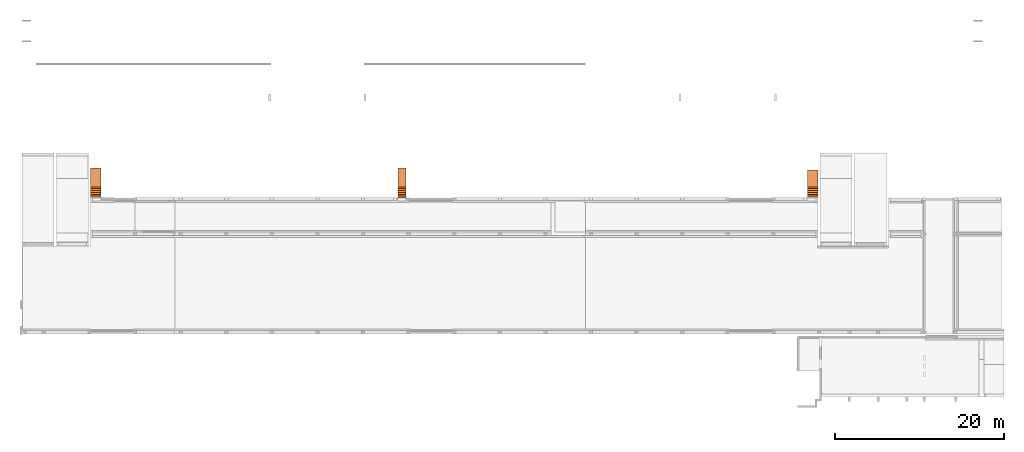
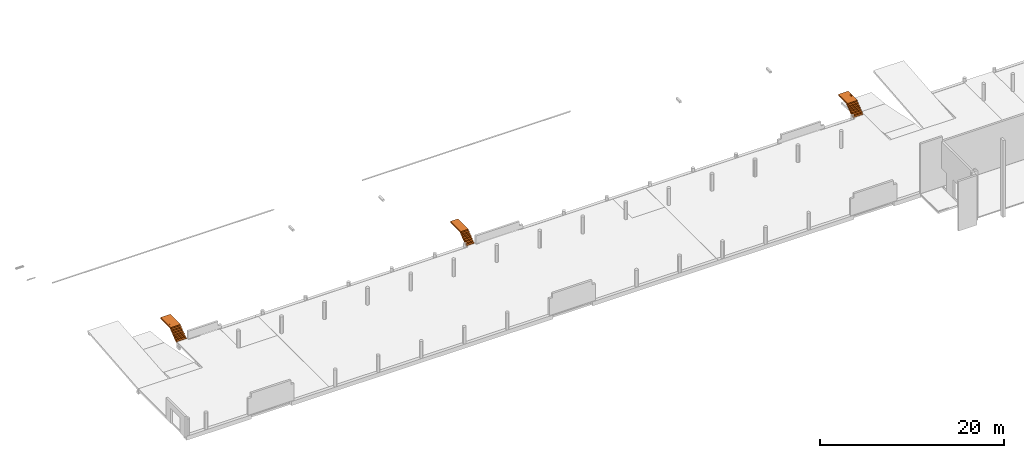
# One storey, part 9 of 9: 3 proxies.
"""IFC2X3 building model written with IfcOpenShell, lengths in millimetres."""

import ifcopenshell
import ifcopenshell.guid

model = None  # the IFC model being written
_history = None  # IfcOwnerHistory: only IFC2X3 demands one
_inside = {}  # id of a spatial element -> (the spatial element, [elements in it])
_under = {}  # id of a project, library or spatial element -> (it, [spatial elements below it])
_declared = {}  # id of a project -> (the project, [libraries it declares])
_typed = {}  # id of a type object -> (the type object, [elements of that type])
_made_of = {}  # id of a material, layer set ... -> (it, [elements and type objects made of it])


def new_model(schema):
    """Start an empty IFC model of exactly this schema.

    Asked for "IFC4X3", IfcOpenShell would pick the latest addendum, in which some entities
    have other attributes; the version numbers below select the first issue.
    IFC2X3 requires an IfcOwnerHistory on every rooted entity: one is made here for all.
    """
    global model, _history
    if schema == "IFC4X3":
        model = ifcopenshell.file(schema_version=(4, 3, 0, 0))
    else:
        model = ifcopenshell.file(schema=schema)
    _inside.clear()
    _under.clear()
    _declared.clear()
    _typed.clear()
    _made_of.clear()
    _history = None
    if model.schema == "IFC2X3":
        org = make("IfcOrganization", Name="unknown")
        user = make(
            "IfcPersonAndOrganization",
            ThePerson=make("IfcPerson", FamilyName="unknown"),
            TheOrganization=org,
        )
        app = make(
            "IfcApplication",
            ApplicationDeveloper=org,
            Version="unknown",
            ApplicationFullName="unknown",
            ApplicationIdentifier="unknown",
        )
        _history = make(
            "IfcOwnerHistory",
            OwningUser=user,
            OwningApplication=app,
            ChangeAction="ADDED",
            CreationDate=0,
        )
    return model


def make(cls, **values):
    """One entity of the class cls with the attributes given. An attribute that is None is left unset."""
    return model.create_entity(
        cls, **{name: value for name, value in values.items() if value is not None}
    )


def entity(cls, *values):
    """Any entity or typed value of the class cls, its attributes in the order of the schema. None: left unset."""
    e = model.create_entity(cls)
    for i, value in enumerate(values):
        if value is not None:
            e[i] = value
    return e


def rooted(cls, **values):
    """An entity with a GlobalId (a new one), such as an element, a storey or a relation."""
    return make(cls, GlobalId=ifcopenshell.guid.new(), OwnerHistory=_history, **values)


def si_unit(unit_type, name, prefix=None):
    """IfcSIUnit, for example si_unit("LENGTHUNIT", "METRE", prefix="MILLI")."""
    return make("IfcSIUnit", UnitType=unit_type, Prefix=prefix, Name=name)


def converted_unit(unit_type, name, factor, base, dimensions=None, offset=None):
    """IfcConversionBasedUnit, such as the inch: factor (a typed value) times the base unit."""
    return make(
        "IfcConversionBasedUnit"
        if offset is None
        else "IfcConversionBasedUnitWithOffset",
        ConversionOffset=offset,
        Dimensions=None
        if dimensions is None
        else entity("IfcDimensionalExponents", *dimensions),
        UnitType=unit_type,
        Name=name,
        ConversionFactor=make(
            "IfcMeasureWithUnit", ValueComponent=factor, UnitComponent=base
        ),
    )


def derived_unit(unit_type, elements):
    """IfcDerivedUnit: a product of units, each with its exponent."""
    return make(
        "IfcDerivedUnit",
        Elements=[
            make("IfcDerivedUnitElement", Unit=unit, Exponent=power)
            for unit, power in elements
        ],
        UnitType=unit_type,
    )


def assignment(units):
    """IfcUnitAssignment: the units of a project."""
    return None if units is None else make("IfcUnitAssignment", Units=units)


def point(xyz):
    """IfcCartesianPoint."""
    return None if xyz is None else make("IfcCartesianPoint", Coordinates=xyz)


def direction(xyz):
    """IfcDirection."""
    return None if xyz is None else make("IfcDirection", DirectionRatios=xyz)


def frame(location, z_axis=None, x_axis=None):
    """IfcAxis2Placement3D, a coordinate frame: its origin and axes. An axis left out is left unset."""
    return make(
        "IfcAxis2Placement3D",
        Location=point(location),
        Axis=direction(z_axis),
        RefDirection=direction(x_axis),
    )


def origin():
    """The frame at (0, 0, 0) with its axes left unset."""
    return frame((0.0, 0.0, 0.0))


def place(relative_to, where):
    """IfcLocalPlacement: puts the frame where relative to a parent placement (None: the world)."""
    return make(
        "IfcLocalPlacement", PlacementRelTo=relative_to, RelativePlacement=where
    )


def context(
    kind, dimensions, precision=None, world=None, true_north=None, identifier=None
):
    """IfcGeometricRepresentationContext, for example the 3D "Model" context."""
    return make(
        "IfcGeometricRepresentationContext",
        ContextIdentifier=identifier,
        ContextType=kind,
        CoordinateSpaceDimension=dimensions,
        Precision=precision,
        WorldCoordinateSystem=world,
        TrueNorth=true_north,
    )


def subcontext(parent, identifier, kind, view, scale=None):
    """IfcGeometricRepresentationSubContext, for example "Body" below "Model"."""
    return make(
        "IfcGeometricRepresentationSubContext",
        ContextIdentifier=identifier,
        ContextType=kind,
        ParentContext=parent,
        TargetScale=scale,
        TargetView=view,
    )


def project(units=None, contexts=None):
    """IfcProject with its units and contexts."""
    return rooted(
        "IfcProject",
        Name="project",
        RepresentationContexts=contexts,
        UnitsInContext=assignment(units),
    )


def spatial(cls, under=None, at=None, **own):
    """A site, building, storey or space (cls), placed at a placement, below another one or the project."""
    s = rooted(cls, ObjectPlacement=at, **own)
    if under is not None:
        _under.setdefault(under.id(), (under, []))[1].append(s)
    return s


def polyline(points):
    """IfcPolyline through the points."""
    return make("IfcPolyline", Points=[point(p) for p in points])


def outline(outer, holes=None, kind="AREA"):
    """IfcArbitraryClosedProfileDef: a profile drawn as a closed curve; with holes, ...WithVoids."""
    if holes is None:
        return make("IfcArbitraryClosedProfileDef", ProfileType=kind, OuterCurve=outer)
    return make(
        "IfcArbitraryProfileDefWithVoids",
        ProfileType=kind,
        OuterCurve=outer,
        InnerCurves=holes,
    )


def extrude(swept, where, along, depth):
    """IfcExtrudedAreaSolid: the profile swept, set in the frame where, extruded along a direction by depth."""
    return make(
        "IfcExtrudedAreaSolid",
        SweptArea=swept,
        Position=where,
        ExtrudedDirection=direction(along),
        Depth=depth,
    )


def shape(context_of_items, identifier, shape_type, items):
    """IfcShapeRepresentation: the items that make up one representation, for example the "Body"."""
    return make(
        "IfcShapeRepresentation",
        ContextOfItems=context_of_items,
        RepresentationIdentifier=identifier,
        RepresentationType=shape_type,
        Items=items,
    )


def source(mapping_origin, context_of_items, identifier, shape_type, items):
    """IfcRepresentationMap: a shape defined once, which mapped items show again and again."""
    return make(
        "IfcRepresentationMap",
        MappingOrigin=mapping_origin,
        MappedRepresentation=shape(context_of_items, identifier, shape_type, items),
    )


def transform(
    local_origin,
    x_axis=None,
    y_axis=None,
    z_axis=None,
    scale=None,
    scale2=None,
    scale3=None,
    uniform=True,
):
    """IfcCartesianTransformationOperator3D, or its non-uniform kind. x_axis, y_axis, z_axis: its Axis1, 2, 3."""
    if uniform:
        return make(
            "IfcCartesianTransformationOperator3D",
            Axis1=direction(x_axis),
            Axis2=direction(y_axis),
            LocalOrigin=point(local_origin),
            Scale=scale,
            Axis3=direction(z_axis),
        )
    return make(
        "IfcCartesianTransformationOperator3DnonUniform",
        Axis1=direction(x_axis),
        Axis2=direction(y_axis),
        LocalOrigin=point(local_origin),
        Scale=scale,
        Axis3=direction(z_axis),
        Scale2=scale2,
        Scale3=scale3,
    )


def mapped(mapping_source, mapping_target):
    """IfcMappedItem: shows the shape of a source again, moved by a transform."""
    return make(
        "IfcMappedItem", MappingSource=mapping_source, MappingTarget=mapping_target
    )


def material(Name=None, Category=None):
    """IfcMaterial."""
    return make("IfcMaterial", Name=Name, Category=Category)


def made_of(thing, what):
    """Note that an element or type object is made of a material, layer set ...; save() writes the relation."""
    if what is not None:
        _made_of.setdefault(what.id(), (what, []))[1].append(thing)
    return thing


def type_object(cls, material=None, **own):
    """A type object (cls), such as IfcWallType, which elements share."""
    return made_of(rooted(cls, **own), material)


def type_shapes(of_type, sources):
    """Give a type object the sources (RepresentationMaps) that its elements show as mapped items."""
    of_type.RepresentationMaps = sources


def element(
    cls,
    number,
    at=None,
    inside=None,
    cuts=None,
    type_object=None,
    material=None,
    context=None,
    identifier="Body",
    shape_type=None,
    held_by="IfcProductDefinitionShape",
    body=None,
    shapes=None,
    **own,
):
    """One element of the class cls, such as IfcWall. Its Tag is "e" and its number.

    at: its placement. inside: the storey or other place that contains it. cuts: it is an
    opening in that element (IfcRelVoidsElement). A single representation is given by context,
    identifier, shape_type and body (its items); several are given by shapes. held_by: the class
    of the entity that holds the representations. save() writes the other relations.
    """
    e = rooted(cls, Tag="e%d" % number, ObjectPlacement=at, **own)
    if body is not None:
        shapes = [shape(context, identifier, shape_type, body)]
    if shapes is not None:
        e.Representation = make(held_by, Representations=shapes)
    if inside is not None:
        _inside.setdefault(inside.id(), (inside, []))[1].append(e)
    if cuts is not None:
        rooted(
            "IfcRelVoidsElement", RelatingBuildingElement=cuts, RelatedOpeningElement=e
        )
    if type_object is not None:
        _typed.setdefault(type_object.id(), (type_object, []))[1].append(e)
    return made_of(e, material)


def aggregate(whole, parts):
    """IfcRelAggregates: a whole, such as a stair, and the parts it consists of."""
    return rooted("IfcRelAggregates", RelatingObject=whole, RelatedObjects=parts)


def save(model, path):
    """Write the relations noted so far, then the file.

    IfcRelAggregates (storeys below a building ...), IfcRelContainedInSpatialStructure (elements
    in a storey), IfcRelDefinesByType, IfcRelAssociatesMaterial and IfcRelDeclares: one each for
    every whole, place, type object, material and project.
    """
    for whole, parts in _under.values():
        aggregate(whole, parts)
    for where, things in _inside.values():
        rooted(
            "IfcRelContainedInSpatialStructure",
            RelatedElements=things,
            RelatingStructure=where,
        )
    for kind, things in _typed.values():
        rooted("IfcRelDefinesByType", RelatedObjects=things, RelatingType=kind)
    for what, things in _made_of.values():
        rooted("IfcRelAssociatesMaterial", RelatedObjects=things, RelatingMaterial=what)
    for by, libraries in _declared.values():
        rooted("IfcRelDeclares", RelatingContext=by, RelatedDefinitions=libraries)
    model.write(path)


model = new_model("IFC2X3")

# Units and contexts
model_context = context("Model", 3, precision=0.01, world=origin(), true_north=direction((6.12303176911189e-17, 1.0)))
body_context = subcontext(model_context, "Body", "Model", "MODEL_VIEW")
ifc_project = project(units=[si_unit("LENGTHUNIT", "METRE", prefix="MILLI"), si_unit("AREAUNIT", "SQUARE_METRE"), si_unit("VOLUMEUNIT", "CUBIC_METRE"), converted_unit("PLANEANGLEUNIT", "DEGREE", entity("IfcRatioMeasure", 0.0174532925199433), si_unit("PLANEANGLEUNIT", "RADIAN"), dimensions=[0, 0, 0, 0, 0, 0, 0]), si_unit("MASSUNIT", "GRAM", prefix="KILO"), derived_unit("MASSDENSITYUNIT", [(si_unit("MASSUNIT", "GRAM", prefix="KILO"), 1), (si_unit("LENGTHUNIT", "METRE"), -3)]), si_unit("TIMEUNIT", "SECOND"), si_unit("FREQUENCYUNIT", "HERTZ"), si_unit("THERMODYNAMICTEMPERATUREUNIT", "DEGREE_CELSIUS"), derived_unit("THERMALTRANSMITTANCEUNIT", [(si_unit("MASSUNIT", "GRAM", prefix="KILO"), 1), (si_unit("THERMODYNAMICTEMPERATUREUNIT", "KELVIN"), -1), (si_unit("TIMEUNIT", "SECOND"), -3)]), derived_unit("VOLUMETRICFLOWRATEUNIT", [(si_unit("LENGTHUNIT", "METRE"), 3), (si_unit("TIMEUNIT", "SECOND"), -1)]), si_unit("ELECTRICCURRENTUNIT", "AMPERE"), si_unit("ELECTRICVOLTAGEUNIT", "VOLT"), si_unit("POWERUNIT", "WATT"), si_unit("FORCEUNIT", "NEWTON", prefix="KILO"), si_unit("ILLUMINANCEUNIT", "LUX"), si_unit("LUMINOUSFLUXUNIT", "LUMEN"), si_unit("LUMINOUSINTENSITYUNIT", "CANDELA"), derived_unit("USERDEFINED", [(si_unit("MASSUNIT", "GRAM", prefix="KILO"), -1), (si_unit("LENGTHUNIT", "METRE"), -2), (si_unit("TIMEUNIT", "SECOND"), 3), (si_unit("LUMINOUSFLUXUNIT", "LUMEN"), 1)]), derived_unit("LINEARVELOCITYUNIT", [(si_unit("LENGTHUNIT", "METRE"), 1), (si_unit("TIMEUNIT", "SECOND"), -1)]), si_unit("PRESSUREUNIT", "PASCAL"), derived_unit("USERDEFINED", [(si_unit("LENGTHUNIT", "METRE"), -2), (si_unit("MASSUNIT", "GRAM", prefix="KILO"), 1), (si_unit("TIMEUNIT", "SECOND"), -2)])], contexts=[model_context])

# Site, building, storey
site_placement = place(None, origin())
site = spatial("IfcSite", under=ifc_project, at=site_placement, Name="Default", CompositionType="ELEMENT")
building_placement = place(site_placement, origin())
building = spatial("IfcBuilding", under=site, at=building_placement, Name="niet gebruiken", CompositionType="ELEMENT")
storey_placement = place(building_placement, frame((0.0, 0.0, 5570.0)))
storey = spatial("IfcBuildingStorey", under=building, at=storey_placement, Name="01b tweede tussenverdieping", CompositionType="ELEMENT", Elevation=5570.0)

# Proxies
building_element_proxy_type_1 = type_object("IfcBuildingElementProxyType", Name="NLRS_24.11_GM_UN_prefab trap parking bordes l=2020_gen", PredefinedType="NOTDEFINED")
shared_shape_1 = source(origin(), body_context, "Body", "SweptSolid", [
    extrude(outline(polyline([(414.133931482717, 276.282051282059), (654.133931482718, 276.282051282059), (654.133931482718, 321.282051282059), (634.133931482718, 449.615384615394), (874.133931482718, 449.615384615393), (874.133931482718, 579.615384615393), (774.133931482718, 579.615384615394), (774.133931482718, 659.615384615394), (618.344822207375, 659.615384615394), (-737.559177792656, -410.384615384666), (-2465.86606851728, -410.384615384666), (-2465.86606851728, -590.384615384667), (-445.866068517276, -590.384615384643), (-445.866068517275, -545.384615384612), (-465.866068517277, -417.051282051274), (-225.866068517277, -417.051282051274), (-225.866068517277, -372.051282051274), (-245.866068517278, -243.71794871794), (-5.8660685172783, -243.71794871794), (-5.8660685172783, -198.717948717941), (-25.8660685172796, -70.3846153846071), (214.13393148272, -70.3846153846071), (214.13393148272, -25.3846153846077), (194.133931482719, 102.948717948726), (434.133931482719, 102.948717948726), (434.133931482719, 147.948717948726), (414.133931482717, 276.282051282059)])), frame((-1230.0, 654.133931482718, 449.615384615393), z_axis=(1.0, 0.0, 0.0), x_axis=(0.0, -1.0, 0.0)), (0.0, 0.0, 1.0), 1230.0),
    extrude(outline(polyline([(-60.2801699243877, -28.6531383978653), (-60.2801699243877, -47.488696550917), (90.4042953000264, -47.488696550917), (90.4042953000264, -28.6531383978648), (34.5230202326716, -28.6531383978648), (48.18063930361, -15.4645688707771), (52.7331789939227, 0.924574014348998), (48.6312947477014, 19.7969203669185), (37.098194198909, 34.438623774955), (19.1639469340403, 43.4333385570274), (-3.29524887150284, 46.689094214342), (-28.4399832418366, 43.3183754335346), (-47.1467826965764, 33.2062190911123), (-58.7626566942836, 18.3667791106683), (-62.6346146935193, 0.814209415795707), (-57.6406166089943, -15.9336184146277), (-42.6586223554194, -28.6531383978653), (-60.2801699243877, -28.6531383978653)]), holes=[polyline([(-4.17816565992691, -28.653138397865), (-19.8867268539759, -27.3655514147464), (-30.5185165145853, -23.5027904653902), (-40.4789215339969, -13.6343559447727), (-43.7990565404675, -0.804471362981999), (-41.3526412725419, 10.066441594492), (-34.0133954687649, 19.3554619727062), (-21.8273043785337, 25.7290175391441), (-4.84035325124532, 27.85353606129), (12.3949182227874, 25.8163895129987), (24.4430535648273, 19.7049498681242), (31.5339790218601, 10.705636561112), (33.897620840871, 0.00486902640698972), (31.4512055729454, -10.866043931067), (24.1119597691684, -20.1550643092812), (12.1465978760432, -26.5286198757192), (-4.17816565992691, -28.653138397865)])]), frame((-145.872661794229, 1716.4187180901, 1040.0), z_axis=(0.0, 0.0, -1.0), x_axis=(-1.0, 0.0, 0.0)), (0.0, 0.0, -1.0), 10.0),
    extrude(outline(polyline([(-11.1946000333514, -52.2426443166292), (13.7256178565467, -52.2426443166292), (33.0962748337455, -44.5759588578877), (46.302284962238, -30.4665992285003), (52.7285623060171, -11.1385767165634), (52.8795704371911, 2.26160042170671), (49.539603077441, 15.0586597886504), (42.9102470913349, 26.3612191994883), (33.1930893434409, 35.2778964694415), (19.4724914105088, 41.8007990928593), (0.832814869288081, 45.9220345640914), (-22.8762356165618, 45.717254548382), (-41.8930612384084, 37.8901775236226), (-55.142589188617, 23.7682718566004), (-61.5497466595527, 4.67900591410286), (-60.9951142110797, -13.6515433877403), (-53.9645370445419, -29.8701936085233), (-37.0646721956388, -44.5487589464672), (-11.1946000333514, -52.2426443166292)]), holes=[polyline([(-8.64857835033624, -33.5799173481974), (-25.2263685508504, -29.0848574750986), (-36.3325046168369, -20.9461821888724), (-42.1575488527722, -10.2052592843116), (-42.8920635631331, 2.09654344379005), (-38.8516378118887, 13.6120893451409), (-30.3014219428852, 22.3586496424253), (-17.5331679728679, 27.2345846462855), (-0.838627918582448, 27.1382546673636), (16.1172354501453, 22.5908646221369), (27.4101305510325, 14.4263394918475), (33.3060231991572, 3.69417972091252), (34.0708792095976, -8.55611424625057), (30.0134303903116, -20.1946478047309), (21.4625840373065, -28.9457632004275), (8.53602088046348, -33.7580048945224), (-8.64857835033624, -33.5799173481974)])]), frame((-136.995825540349, 1832.87305605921, 1040.0), z_axis=(0.0, 0.0, 1.0), x_axis=(0.990556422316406, 0.137105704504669, 0.0)), (0.0, 0.0, 1.0), 10.0),
    extrude(outline(polyline([(-11.1946000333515, -52.2426443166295), (13.7256178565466, -52.2426443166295), (33.0962748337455, -44.5759588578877), (46.3022849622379, -30.4665992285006), (52.7285623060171, -11.1385767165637), (52.8795704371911, 2.26160042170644), (49.539603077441, 15.0586597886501), (42.9102470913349, 26.3612191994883), (33.1930893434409, 35.2778964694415), (19.4724914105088, 41.8007990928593), (0.832814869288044, 45.9220345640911), (-22.8762356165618, 45.717254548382), (-41.8930612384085, 37.8901775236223), (-55.142589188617, 23.7682718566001), (-61.5497466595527, 4.67900591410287), (-60.9951142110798, -13.6515433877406), (-53.9645370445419, -29.8701936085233), (-37.0646721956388, -44.5487589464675), (-11.1946000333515, -52.2426443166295)]), holes=[polyline([(-8.64857835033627, -33.5799173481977), (-25.2263685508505, -29.0848574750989), (-36.3325046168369, -20.9461821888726), (-42.1575488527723, -10.2052592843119), (-42.8920635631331, 2.09654344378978), (-38.8516378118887, 13.6120893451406), (-30.3014219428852, 22.358649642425), (-17.5331679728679, 27.2345846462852), (-0.838627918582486, 27.1382546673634), (16.1172354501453, 22.5908646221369), (27.4101305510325, 14.4263394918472), (33.3060231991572, 3.69417972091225), (34.0708792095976, -8.55611424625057), (30.0134303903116, -20.1946478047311), (21.4625840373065, -28.9457632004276), (8.53602088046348, -33.7580048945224), (-8.64857835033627, -33.5799173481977)])]), frame((-136.995825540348, 1948.24084974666, 1040.0), z_axis=(0.0, 0.0, 1.0), x_axis=(0.990556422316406, 0.137105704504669, 0.0)), (0.0, 0.0, 1.0), 10.0),
    extrude(outline(polyline([(-26.1606546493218, -81.4207751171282), (-7.32509649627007, -81.4207751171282), (-7.32509649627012, -23.2586316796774), (-4.27167593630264, -1.25928836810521), (2.51574687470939, 9.041407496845), (13.1659306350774, 12.7570156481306), (26.4096824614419, 8.89425469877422), (32.700464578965, 25.7800382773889), (13.7913300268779, 31.5925738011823), (2.01910618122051, 27.9505420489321), (-9.67954126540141, 12.8673802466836), (-9.67954126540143, 29.238129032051), (-26.1606546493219, 29.238129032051), (-26.1606546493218, -81.4207751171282)])), frame((-167.013266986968, 2041.19405725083, 1040.0), z_axis=(0.0, 0.0, 1.0), x_axis=(0.0, 1.0, 0.0)), (0.0, 0.0, 1.0), 10.0),
    extrude(outline(polyline([(-46.0644855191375, -53.4306150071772), (48.1133052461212, -53.4306150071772), (48.1133052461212, -34.5950568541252), (1.06119806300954, -34.5950568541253), (-20.7174160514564, -34.5950568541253), (-11.8882481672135, -24.5150901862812), (45.7588604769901, 41.2254223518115), (45.7588604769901, 57.2282891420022), (-41.3555959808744, 57.2282891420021), (-41.3555959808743, 38.3927309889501), (-0.299965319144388, 38.3927309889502), (18.9402630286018, 38.3927309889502), (-46.0644855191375, -35.6987028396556), (-46.0644855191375, -53.4306150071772)])), frame((-139.023106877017, 2119.95900734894, 1040.0), z_axis=(0.0, 0.0, 1.0), x_axis=(0.0, 1.0, 0.0)), (0.0, 0.0, 1.0), 10.0),
    extrude(outline(polyline([(-11.1946000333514, -52.2426443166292), (13.7256178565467, -52.2426443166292), (33.0962748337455, -44.5759588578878), (46.302284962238, -30.4665992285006), (52.7285623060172, -11.1385767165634), (52.8795704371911, 2.26160042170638), (49.539603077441, 15.0586597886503), (42.9102470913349, 26.3612191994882), (33.193089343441, 35.2778964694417), (19.4724914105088, 41.8007990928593), (0.832814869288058, 45.9220345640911), (-22.8762356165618, 45.717254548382), (-41.8930612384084, 37.8901775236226), (-55.1425891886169, 23.7682718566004), (-61.5497466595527, 4.67900591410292), (-60.9951142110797, -13.6515433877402), (-53.9645370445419, -29.8701936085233), (-37.0646721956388, -44.5487589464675), (-11.1946000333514, -52.2426443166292)]), holes=[polyline([(-8.6485783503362, -33.5799173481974), (-25.2263685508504, -29.0848574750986), (-36.3325046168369, -20.9461821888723), (-42.1575488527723, -10.2052592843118), (-42.8920635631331, 2.09654344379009), (-38.8516378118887, 13.6120893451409), (-30.3014219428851, 22.3586496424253), (-17.5331679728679, 27.2345846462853), (-0.838627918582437, 27.1382546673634), (16.1172354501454, 22.5908646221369), (27.4101305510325, 14.4263394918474), (33.3060231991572, 3.69417972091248), (34.0708792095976, -8.55611424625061), (30.0134303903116, -20.1946478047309), (21.4625840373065, -28.9457632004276), (8.53602088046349, -33.7580048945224), (-8.6485783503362, -33.5799173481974)])]), frame((-136.995825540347, 2235.4831115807, 1040.0), z_axis=(0.0, 0.0, 1.0), x_axis=(0.990556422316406, 0.137105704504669, 0.0)), (0.0, 0.0, 1.0), 10.0),
    extrude(outline(polyline([(-46.9540053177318, -73.7182963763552), (-28.1184471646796, -73.7182963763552), (-28.1184471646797, -15.0043299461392), (-25.9709360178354, 2.350503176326), (-19.5284025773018, 13.0650662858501), (-10.1244190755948, 18.6108873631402), (0.907442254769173, 20.4594943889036), (13.8384943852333, 17.1669505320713), (21.5088339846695, 8.35617674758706), (23.6793377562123, -8.30887763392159), (23.6793377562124, -73.7182963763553), (42.5148959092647, -73.7182963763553), (42.5148959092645, -5.77049186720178), (41.521614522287, 12.4396668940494), (35.874625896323, 26.2904240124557), (23.7345200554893, 35.7082030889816), (5.94742558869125, 39.2950525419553), (-13.7158670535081, 34.8436804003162), (-28.1184471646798, 21.4895639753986), (-28.1184471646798, 36.940607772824), (-46.954005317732, 36.9406077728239), (-46.9540053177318, -73.7182963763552)])), frame((-159.310788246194, 2349.22966975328, 1040.0), z_axis=(0.0, 0.0, 1.0), x_axis=(0.0, 1.0, 0.0)), (0.0, 0.0, 1.0), 10.0),
    extrude(outline(polyline([(-12.151923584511, -30.5627594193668), (-23.3028322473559, -45.4710024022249), (-8.67600558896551, -50.3662606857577), (6.18277634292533, -49.9698260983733), (20.8164252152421, -44.1721168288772), (34.7678526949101, -32.8635510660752), (47.4570640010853, -14.3885693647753), (51.2430729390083, 5.61202992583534), (45.9060763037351, 25.8663302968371), (31.2262708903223, 45.1024152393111), (10.9154740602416, 59.6770093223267), (-9.99269287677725, 64.667672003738), (-29.9463894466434, 60.6331852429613), (-47.393775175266, 48.1323309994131), (-58.8653278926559, 30.7635073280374), (-61.9660241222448, 11.0147969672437), (-56.1560561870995, -9.52443743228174), (-40.8956164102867, -29.2648332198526), (-37.1706876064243, -32.7160206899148), (21.6964908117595, 28.1133970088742), (29.5607979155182, 15.9656989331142), (31.7422008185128, 3.31507577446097), (28.7208128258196, -8.97205129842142), (20.9767472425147, -20.0292611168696), (5.30526907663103, -30.5627594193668), (-12.151923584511, -30.5627594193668)]), holes=[polyline([(8.16121838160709, 41.2120477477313), (-37.6840592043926, -6.16140575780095), (-43.063374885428, 2.58957596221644), (-44.7058228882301, 11.128642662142), (-41.8277013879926, 23.6248066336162), (-33.8073361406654, 35.0865524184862), (-23.7122716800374, 42.9855035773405), (-12.6145549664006, 46.8552978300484), (-1.62109020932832, 46.3720932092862), (8.16121838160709, 41.2120477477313)])]), frame((-131.076318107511, 2464.70623388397, 1040.0), z_axis=(0.0, 0.0, -1.0), x_axis=(0.718602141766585, -0.695421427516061, 0.0)), (0.0, 0.0, -1.0), 10.0),
])
type_shapes(building_element_proxy_type_1, [shared_shape_1])
proxy_1_placement = place(storey_placement, frame((102455.0, 25316.0, 0.0)))
element("IfcBuildingElementProxy", 1, at=proxy_1_placement, inside=storey, type_object=building_element_proxy_type_1, Name="NLRS_24.11_GM_UN_prefab trap parking_gen:NLRS_24.11_GM_UN_prefab trap parking bordes l=2020_gen", ObjectType="NLRS_24.11_GM_UN_prefab trap parking bordes l=2020_gen", context=body_context, shape_type="MappedRepresentation", body=[
    mapped(shared_shape_1, transform((0.0, 0.0, 0.0), scale=1.0)),
])
building_element_proxy_type_2 = type_object("IfcBuildingElementProxyType", Name="NLRS_24.11_GM_UN_prefab trap parking bordes l=2245_gen", PredefinedType="NOTDEFINED")
shared_shape_2 = source(origin(), body_context, "Body", "SweptSolid", [
    extrude(outline(polyline([(431.44162379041, 276.282051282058), (671.441623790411, 276.282051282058), (671.441623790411, 321.282051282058), (651.44162379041, 449.615384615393), (891.44162379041, 449.615384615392), (891.441623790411, 579.615384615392), (791.44162379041, 579.615384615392), (791.441623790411, 659.615384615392), (635.652514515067, 659.615384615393), (-720.251485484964, -410.384615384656), (-2673.55837620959, -410.384615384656), (-2673.55837620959, -590.384615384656), (-428.558376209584, -590.384615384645), (-428.558376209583, -545.384615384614), (-448.558376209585, -417.051282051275), (-208.558376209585, -417.051282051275), (-208.558376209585, -372.051282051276), (-228.558376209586, -243.717948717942), (11.4416237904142, -243.717948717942), (11.4416237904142, -198.717948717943), (-8.55837620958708, -70.3846153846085), (231.441623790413, -70.3846153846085), (231.441623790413, -25.384615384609), (211.441623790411, 102.948717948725), (451.441623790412, 102.948717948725), (451.441623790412, 147.948717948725), (431.44162379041, 276.282051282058)])), frame((-950.0, 671.441623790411, 449.615384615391), z_axis=(1.0, 0.0, 0.0), x_axis=(0.0, -1.0, 0.0)), (0.0, 0.0, 1.0), 949.999999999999),
])
type_shapes(building_element_proxy_type_2, [shared_shape_2])
proxy_2_placement = place(storey_placement, frame((53670.0, 25316.0, 0.0)))
element("IfcBuildingElementProxy", 2, at=proxy_2_placement, inside=storey, type_object=building_element_proxy_type_2, Name="NLRS_24.11_GM_UN_prefab trap parking_gen:NLRS_24.11_GM_UN_prefab trap parking bordes l=2245_gen", ObjectType="NLRS_24.11_GM_UN_prefab trap parking bordes l=2245_gen", context=body_context, shape_type="MappedRepresentation", body=[
    mapped(shared_shape_2, transform((0.0, 0.0, 0.0), scale=1.0)),
])
ifc_material = material(Name="Analytical Floor Surface")
building_element_proxy_type_3 = type_object("IfcBuildingElementProxyType", Name="NLRS_24.11_GM_UN_prefab trap parking bordes l=2245 b=1230_gen", PredefinedType="NOTDEFINED", material=ifc_material)
shared_shape_3 = source(origin(), body_context, "Body", "SweptSolid", [
    extrude(outline(polyline([(431.44162379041, 276.282051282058), (671.441623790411, 276.282051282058), (671.441623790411, 321.282051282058), (651.44162379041, 449.615384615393), (891.44162379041, 449.615384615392), (891.441623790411, 579.615384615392), (791.44162379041, 579.615384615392), (791.441623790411, 659.615384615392), (635.652514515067, 659.615384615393), (-720.251485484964, -410.384615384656), (-2673.55837620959, -410.384615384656), (-2673.55837620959, -590.384615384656), (-428.558376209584, -590.384615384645), (-428.558376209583, -545.384615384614), (-448.558376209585, -417.051282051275), (-208.558376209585, -417.051282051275), (-208.558376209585, -372.051282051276), (-228.558376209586, -243.717948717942), (11.4416237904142, -243.717948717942), (11.4416237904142, -198.717948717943), (-8.55837620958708, -70.3846153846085), (231.441623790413, -70.3846153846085), (231.441623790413, -25.384615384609), (211.441623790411, 102.948717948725), (451.441623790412, 102.948717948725), (451.441623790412, 147.948717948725), (431.44162379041, 276.282051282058)])), frame((-1230.0, 671.441623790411, 449.615384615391), z_axis=(1.0, 0.0, 0.0), x_axis=(0.0, -1.0, 0.0)), (0.0, 0.0, 1.0), 1230.0),
    extrude(outline(polyline([(-60.2801699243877, -28.6531383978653), (-60.2801699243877, -47.4886965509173), (90.4042953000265, -47.4886965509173), (90.4042953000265, -28.653138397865), (34.5230202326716, -28.653138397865), (48.18063930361, -15.4645688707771), (52.7331789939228, 0.924574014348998), (48.6312947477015, 19.7969203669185), (37.0981941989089, 34.4386237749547), (19.1639469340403, 43.4333385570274), (-3.29524887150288, 46.6890942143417), (-28.4399832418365, 43.3183754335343), (-47.1467826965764, 33.2062190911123), (-58.7626566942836, 18.3667791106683), (-62.6346146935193, 0.814209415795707), (-57.6406166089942, -15.9336184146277), (-42.6586223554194, -28.6531383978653), (-60.2801699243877, -28.6531383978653)]), holes=[polyline([(-4.1781656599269, -28.6531383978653), (-19.8867268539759, -27.3655514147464), (-30.5185165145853, -23.5027904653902), (-40.4789215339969, -13.6343559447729), (-43.7990565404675, -0.80447136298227), (-41.3526412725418, 10.066441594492), (-34.013395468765, 19.3554619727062), (-21.8273043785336, 25.7290175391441), (-4.84035325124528, 27.85353606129), (12.3949182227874, 25.8163895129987), (24.4430535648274, 19.7049498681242), (31.5339790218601, 10.705636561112), (33.897620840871, 0.00486902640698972), (31.4512055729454, -10.8660439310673), (24.1119597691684, -20.1550643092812), (12.1465978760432, -26.5286198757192), (-4.1781656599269, -28.6531383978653)])]), frame((-1085.28016992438, 1744.60796934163, 1040.0), z_axis=(0.0, 0.0, -1.0), x_axis=(-1.0, 0.0, 0.0)), (0.0, 0.0, -1.0), 10.0),
    extrude(outline(polyline([(-11.1946000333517, -52.2426443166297), (13.7256178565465, -52.2426443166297), (33.0962748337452, -44.5759588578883), (46.3022849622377, -30.4665992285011), (52.728562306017, -11.138576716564), (52.8795704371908, 2.26160042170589), (49.5396030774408, 15.0586597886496), (42.9102470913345, 26.3612191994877), (33.1930893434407, 35.2778964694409), (19.4724914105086, 41.8007990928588), (0.832814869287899, 45.9220345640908), (-22.8762356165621, 45.7172545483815), (-41.8930612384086, 37.8901775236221), (-55.1425891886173, 23.7682718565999), (-61.5497466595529, 4.6790059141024), (-60.99511421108, -13.6515433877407), (-53.9645370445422, -29.8701936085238), (-37.0646721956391, -44.548758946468), (-11.1946000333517, -52.2426443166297)]), holes=[polyline([(-8.64857835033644, -33.5799173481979), (-25.2263685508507, -29.0848574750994), (-36.3325046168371, -20.9461821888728), (-42.1575488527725, -10.2052592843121), (-42.8920635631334, 2.09654344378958), (-38.851637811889, 13.6120893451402), (-30.3014219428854, 22.3586496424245), (-17.5331679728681, 27.2345846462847), (-0.838627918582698, 27.1382546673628), (16.1172354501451, 22.5908646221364), (27.4101305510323, 14.4263394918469), (33.306023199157, 3.69417972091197), (34.0708792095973, -8.55611424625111), (30.0134303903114, -20.1946478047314), (21.4625840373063, -28.9457632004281), (8.53602088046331, -33.7580048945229), (-8.64857835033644, -33.5799173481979)])]), frame((-1076.4033336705, 1861.06230731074, 1040.0), z_axis=(0.0, 0.0, 1.0), x_axis=(0.990556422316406, 0.137105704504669, 0.0)), (0.0, 0.0, 1.0), 10.0),
    extrude(outline(polyline([(-11.1946000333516, -52.2426443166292), (13.7256178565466, -52.2426443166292), (33.0962748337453, -44.5759588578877), (46.3022849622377, -30.4665992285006), (52.7285623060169, -11.1385767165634), (52.8795704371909, 2.26160042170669), (49.5396030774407, 15.0586597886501), (42.9102470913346, 26.3612191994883), (33.1930893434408, 35.2778964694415), (19.4724914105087, 41.8007990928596), (0.832814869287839, 45.9220345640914), (-22.876235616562, 45.7172545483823), (-41.8930612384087, 37.8901775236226), (-55.1425891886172, 23.7682718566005), (-61.5497466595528, 4.67900591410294), (-60.9951142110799, -13.6515433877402), (-53.9645370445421, -29.8701936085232), (-37.064672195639, -44.5487589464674), (-11.1946000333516, -52.2426443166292)]), holes=[polyline([(-8.64857835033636, -33.5799173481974), (-25.2263685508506, -29.0848574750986), (-36.3325046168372, -20.9461821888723), (-42.1575488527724, -10.2052592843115), (-42.8920635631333, 2.09654344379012), (-38.851637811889, 13.6120893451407), (-30.3014219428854, 22.3586496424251), (-17.5331679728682, 27.2345846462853), (-0.838627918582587, 27.1382546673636), (16.1172354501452, 22.5908646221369), (27.4101305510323, 14.4263394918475), (33.3060231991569, 3.69417972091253), (34.0708792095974, -8.55611424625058), (30.0134303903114, -20.1946478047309), (21.4625840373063, -28.9457632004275), (8.53602088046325, -33.7580048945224), (-8.64857835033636, -33.5799173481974)])]), frame((-1076.4033336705, 1976.43010099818, 1040.0), z_axis=(0.0, 0.0, 1.0), x_axis=(0.990556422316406, 0.137105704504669, 0.0)), (0.0, 0.0, 1.0), 10.0),
    extrude(outline(polyline([(-26.1606546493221, -81.4207751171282), (-7.3250964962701, -81.4207751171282), (-7.32509649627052, -23.2586316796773), (-4.27167593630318, -1.2592883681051), (2.51574687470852, 9.04140749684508), (13.1659306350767, 12.7570156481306), (26.4096824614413, 8.89425469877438), (32.7004645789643, 25.7800382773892), (13.7913300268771, 31.5925738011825), (2.01910618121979, 27.9505420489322), (-9.67954126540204, 12.8673802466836), (-9.67954126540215, 29.2381290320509), (-26.1606546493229, 29.2381290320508), (-26.1606546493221, -81.4207751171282)])), frame((-1106.42077511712, 2069.38330850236, 1040.0), z_axis=(0.0, 0.0, 1.0), x_axis=(0.0, 1.0, 0.0)), (0.0, 0.0, 1.0), 10.0),
    extrude(outline(polyline([(-46.0644855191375, -53.4306150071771), (48.1133052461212, -53.4306150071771), (48.1133052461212, -34.5950568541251), (1.06119806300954, -34.5950568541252), (-20.7174160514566, -34.5950568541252), (-11.8882481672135, -24.5150901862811), (45.7588604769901, 41.2254223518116), (45.7588604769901, 57.2282891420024), (-41.3555959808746, 57.2282891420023), (-41.3555959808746, 38.3927309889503), (-0.299965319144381, 38.3927309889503), (18.9402630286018, 38.3927309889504), (-46.0644855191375, -35.6987028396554), (-46.0644855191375, -53.4306150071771)])), frame((-1078.43061500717, 2148.14825860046, 1040.0), z_axis=(0.0, 0.0, 1.0), x_axis=(0.0, 1.0, 0.0)), (0.0, 0.0, 1.0), 10.0),
    extrude(outline(polyline([(-11.1946000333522, -52.2426443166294), (13.725617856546, -52.2426443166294), (33.0962748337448, -44.5759588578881), (46.3022849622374, -30.4665992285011), (52.7285623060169, -11.138576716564), (52.879570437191, 2.26160042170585), (49.539603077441, 15.0586597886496), (42.910247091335, 26.3612191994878), (33.1930893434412, 35.2778964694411), (19.4724914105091, 41.8007990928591), (0.832814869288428, 45.9220345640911), (-22.8762356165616, 45.717254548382), (-41.8930612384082, 37.8901775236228), (-55.1425891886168, 23.768271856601), (-61.5497466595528, 4.67900591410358), (-60.99511421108, -13.6515433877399), (-53.9645370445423, -29.8701936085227), (-37.0646721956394, -44.5487589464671), (-11.1946000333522, -52.2426443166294)]), holes=[polyline([(-8.64857835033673, -33.5799173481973), (-25.2263685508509, -29.0848574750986), (-36.3325046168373, -20.9461821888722), (-42.1575488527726, -10.2052592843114), (-42.8920635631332, 2.09654344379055), (-38.8516378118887, 13.6120893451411), (-30.3014219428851, 22.3586496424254), (-17.5331679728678, 27.2345846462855), (-0.838627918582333, 27.1382546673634), (16.1172354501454, 22.5908646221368), (27.4101305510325, 14.4263394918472), (33.3060231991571, 3.69417972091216), (34.0708792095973, -8.55611424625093), (30.0134303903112, -20.1946478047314), (21.462584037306, -28.9457632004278), (8.53602088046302, -33.7580048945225), (-8.64857835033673, -33.5799173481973)])]), frame((-1076.4033336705, 2263.67236283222, 1040.0), z_axis=(0.0, 0.0, 1.0), x_axis=(0.990556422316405, 0.13710570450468, 0.0)), (0.0, 0.0, 1.0), 10.0),
    extrude(outline(polyline([(-46.9540053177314, -73.7182963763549), (-28.1184471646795, -73.7182963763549), (-28.1184471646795, -15.0043299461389), (-25.9709360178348, 2.35050317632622), (-19.5284025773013, 13.0650662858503), (-10.1244190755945, 18.6108873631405), (0.90744225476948, 20.4594943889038), (13.8384943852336, 17.1669505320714), (21.50883398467, 8.35617674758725), (23.6793377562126, -8.3088776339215), (23.6793377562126, -73.7182963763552), (42.5148959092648, -73.7182963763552), (42.5148959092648, -5.77049186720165), (41.5216145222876, 12.4396668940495), (35.8746258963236, 26.2904240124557), (23.7345200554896, 35.7082030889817), (5.9474255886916, 39.2950525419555), (-13.7158670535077, 34.8436804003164), (-28.1184471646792, 21.4895639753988), (-28.1184471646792, 36.9406077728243), (-46.9540053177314, 36.9406077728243), (-46.9540053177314, -73.7182963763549)])), frame((-1098.71829637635, 2377.41892100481, 1040.0), z_axis=(0.0, 0.0, 1.0), x_axis=(0.0, 1.0, 0.0)), (0.0, 0.0, 1.0), 10.0),
    extrude(outline(polyline([(-12.1519235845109, -30.5627594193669), (-23.3028322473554, -45.4710024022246), (-8.67600558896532, -50.3662606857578), (6.18277634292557, -49.9698260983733), (20.8164252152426, -44.1721168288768), (34.7678526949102, -32.8635510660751), (47.4570640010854, -14.3885693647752), (51.2430729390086, 5.61202992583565), (45.9060763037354, 25.8663302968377), (31.2262708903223, 45.1024152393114), (10.9154740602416, 59.677009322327), (-9.99269287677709, 64.6676720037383), (-29.9463894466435, 60.6331852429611), (-47.393775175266, 48.1323309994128), (-58.8653278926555, 30.7635073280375), (-61.9660241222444, 11.0147969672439), (-56.156056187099, -9.52443743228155), (-40.8956164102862, -29.2648332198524), (-37.1706876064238, -32.7160206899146), (21.6964908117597, 28.1133970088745), (29.5607979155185, 15.9656989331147), (31.7422008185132, 3.31507577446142), (28.7208128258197, -8.97205129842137), (20.9767472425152, -20.0292611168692), (5.30526907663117, -30.5627594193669), (-12.1519235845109, -30.5627594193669)]), holes=[polyline([(8.16121838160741, 41.2120477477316), (-37.6840592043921, -6.16140575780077), (-43.063374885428, 2.58957596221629), (-44.7058228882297, 11.1286426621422), (-41.8277013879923, 23.6248066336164), (-33.8073361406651, 35.0865524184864), (-23.7122716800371, 42.9855035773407), (-12.6145549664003, 46.8552978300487), (-1.62109020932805, 46.3720932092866), (8.16121838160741, 41.2120477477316)])]), frame((-1070.48382623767, 2492.89548513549, 1040.0), z_axis=(0.0, 0.0, -1.0), x_axis=(0.718602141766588, -0.695421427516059, 0.0)), (0.0, 0.0, -1.0), 10.0),
])
type_shapes(building_element_proxy_type_3, [shared_shape_3])
proxy_3_placement = place(storey_placement, frame((17575.0, 25316.0, 0.0)))
element("IfcBuildingElementProxy", 3, at=proxy_3_placement, inside=storey, type_object=building_element_proxy_type_3, material=ifc_material, Name="NLRS_24.11_GM_UN_prefab trap parking_gen:NLRS_24.11_GM_UN_prefab trap parking bordes l=2245 b=1230_gen", ObjectType="NLRS_24.11_GM_UN_prefab trap parking bordes l=2245 b=1230_gen", context=body_context, shape_type="MappedRepresentation", body=[
    mapped(shared_shape_3, transform((0.0, 0.0, 0.0), scale=1.0)),
])

save(model, "model.ifc")
